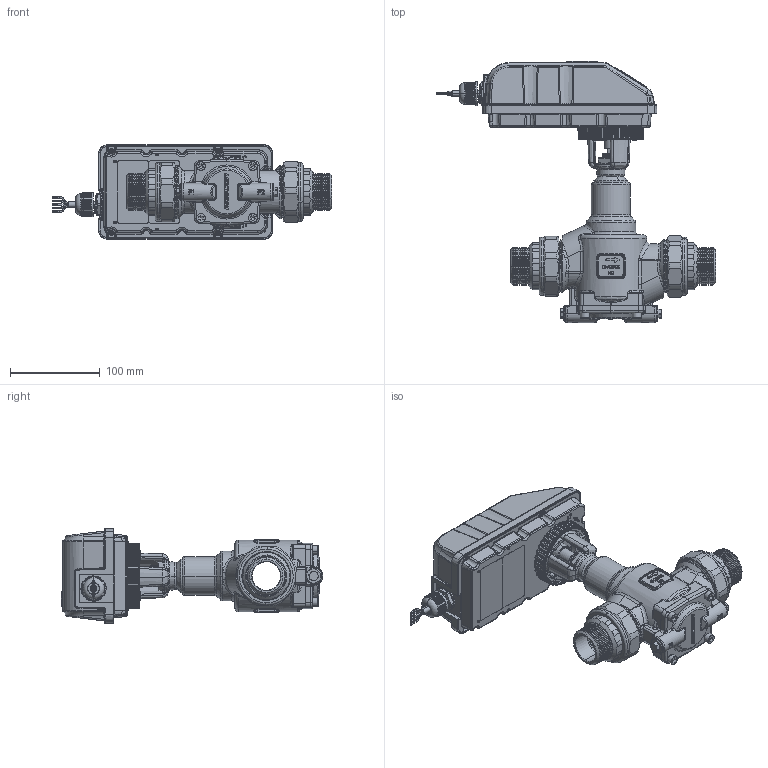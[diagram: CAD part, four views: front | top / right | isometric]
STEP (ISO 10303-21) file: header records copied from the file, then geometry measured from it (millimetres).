
FILE_DESCRIPTION (( 'STEP AP203' ), '1' );
FILE_NAME ('SM.2.1.P.3.S.S.I.STEP', '2025-09-24T13:38:50', ( '' ), ( '' ), 'SwSTEP 2.0', 'SolidWorks 2025', '' );
FILE_SCHEMA (( 'CONFIG_CONTROL_DESIGN' ));
Products named in the file (1): SM.2.1.P.3.S.S.I
Bounding box: 311.94 x 292.5 x 105.86 mm (x, y, z)
Surface area: 212753.2 mm2 (no closed solid volume)
Topology: 0 solids, 86 shells, 3205 faces, 9534 edges, 6224 vertices
Faces by surface type: cylinder 1012, bspline 684, plane 669, cone 417, torus 318, sphere 105
Entity records: 142918 total; most frequent: CARTESIAN_POINT 66362, ORIENTED_EDGE 16417, DIRECTION 14214, EDGE_CURVE 9413, VERTEX_POINT 6219, AXIS2_PLACEMENT_3D 5585, EDGE_LOOP 3371, FACE_OUTER_BOUND 3205
